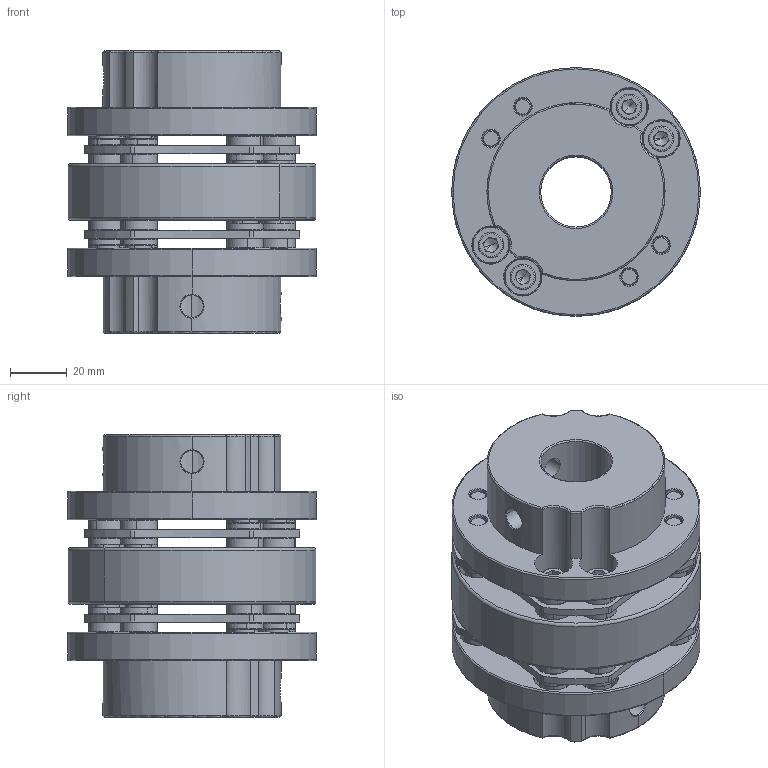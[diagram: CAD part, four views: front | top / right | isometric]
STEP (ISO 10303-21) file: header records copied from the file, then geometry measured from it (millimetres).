
FILE_DESCRIPTION (( 'STEP AP214' ), '1' );
FILE_NAME ('SHDW-88.STEP', '2009-05-21T09:17:12', ( '歜煽繹' ), ( '' ), 'SwSTEP 2.0', 'SolidWorks 2007', '' );
FILE_SCHEMA (( 'AUTOMOTIVE_DESIGN' ));
Length unit declared in the file: millimetre
Products named in the file (9): M6x18; 醞除っ_ル遽; collar-2_ル遽; collar-1_ル遽; sus-plate1_ル遽; 憮蝶っ橫撬_ル遽; sdw-set_head-25_ル遽; 橫撬綰葬1_ル遽; SHDW-88
Assembly tree (30 placements, depth 4):
  SHDW-88
    橫撬綰葬1_ル遽  x2
      憮蝶っ橫撬_ル遽
        collar-2_ル遽  x8
        collar-1_ル遽  x8
        M6x18  x8
        sus-plate1_ル遽
      sdw-set_head-25_ル遽
    醞除っ_ル遽
Bounding box: 88 x 88 x 99.8 mm (x, y, z)
Volume: 310453.9 mm3; surface area: 106899.4 mm2
Topology: 53 solids, 53 shells, 1252 faces, 2730 edges, 1590 vertices
Faces by surface type: torus 392, cylinder 372, plane 332, cone 148, bspline 8
Entity records: 7911 total; most frequent: CARTESIAN_POINT 1684, DIRECTION 1420, ORIENTED_EDGE 1130, AXIS2_PLACEMENT_3D 615, EDGE_CURVE 565, CIRCLE 347, VERTEX_POINT 338, EDGE_LOOP 297
